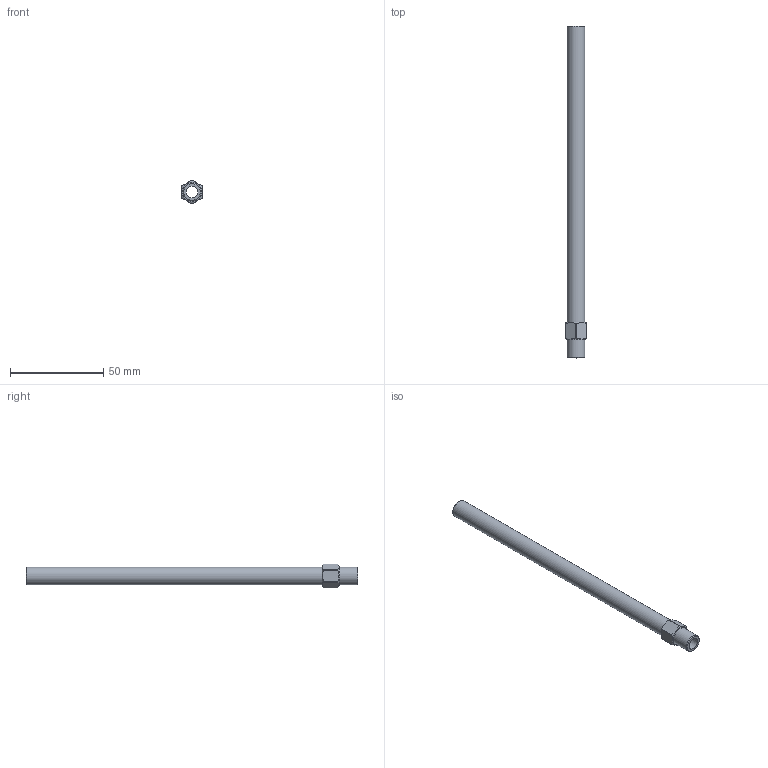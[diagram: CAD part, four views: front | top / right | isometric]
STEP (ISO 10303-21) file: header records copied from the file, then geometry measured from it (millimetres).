
FILE_DESCRIPTION(/* description */ (''),/* implementation_level */ '2;1');
FILE_NAME(/* name */ 'C:/Users/drich/Desktop/APN18-7 v1.step',/* time_stamp */ '2019-12-27T17:51:53-06:00',/* author */ (''),/* organization */ (''),/* preprocessor_version */ 'ST-DEVELOPER v18',/* originating_system */ 'Autodesk Translation Framework v8.12.0.6',/* authorisation */ '');
FILE_SCHEMA (('AUTOMOTIVE_DESIGN { 1 0 10303 214 3 1 1 }'));
Length unit declared in the file: inch
Products named in the file (1): APN18-7
Bounding box: 11.07 x 177.8 x 12.7 mm (x, y, z)
Volume: 7580.9 mm3; surface area: 9107.9 mm2
Topology: 1 solids, 1 shells, 23 faces, 59 edges, 40 vertices
Faces by surface type: plane 10, cylinder 9, cone 4
Full cylindrical faces by diameter (mm): 6.35 x1, 9.621 x2
Entity records: 751 total; most frequent: CARTESIAN_POINT 147, DIRECTION 123, ORIENTED_EDGE 118, EDGE_CURVE 59, AXIS2_PLACEMENT_3D 52, VERTEX_POINT 40, CIRCLE 28, EDGE_LOOP 27
